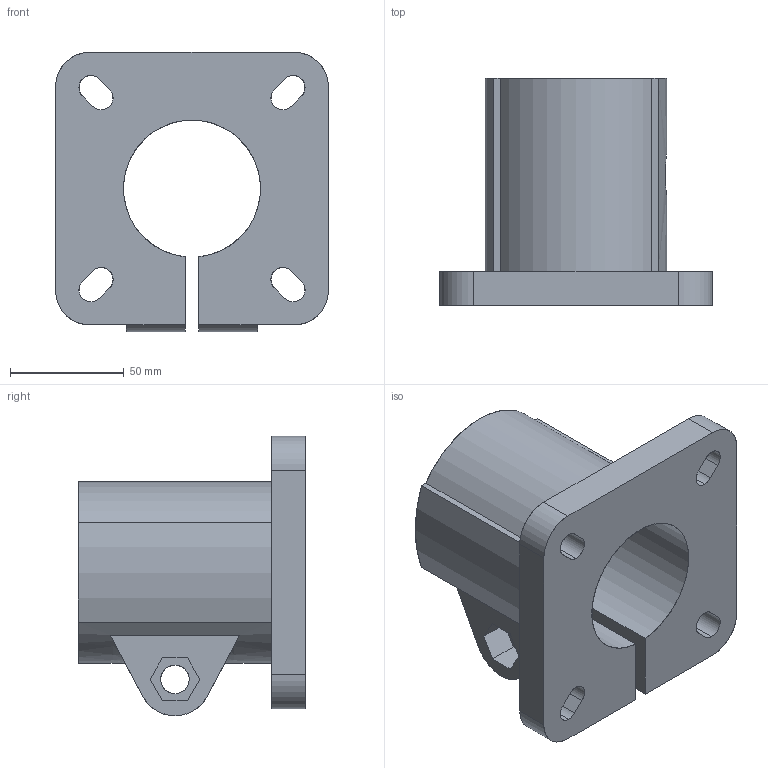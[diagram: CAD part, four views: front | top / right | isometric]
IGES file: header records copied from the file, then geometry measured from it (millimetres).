
Start section: SolidWorks IGES file using analytic representation for surfaces
Global section: file name: R:\Inventor\Kundmodeller Solidworks\Fästen\Base clamp 041J004324.IGS; native system: SolidWorks 2008; preprocessor: SolidWorks 2008; author: Johan; date: 091015.081830; units: millimetre
Bounding box: 120 x 100 x 123 mm (x, y, z)
Surface area: 80499.8 mm2 (no closed solid volume)
Topology: 0 solids, 0 shells, 75 faces, 1330 edges, 1330 vertices
Faces by surface type: bspline 43, revolution 32
